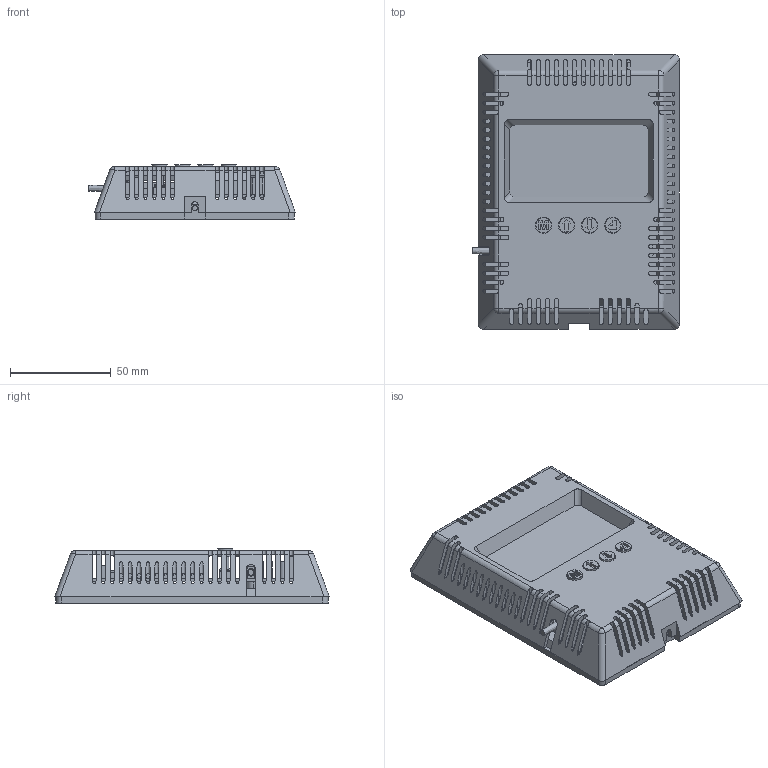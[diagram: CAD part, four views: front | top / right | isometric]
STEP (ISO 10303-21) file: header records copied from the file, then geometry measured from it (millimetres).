
FILE_DESCRIPTION(/* description */ (''),/* implementation_level */ '2;1');
FILE_NAME(/* name */ 'R:\Temp\J. Narvaez\IAN DRAWINGS\001 - Controls\002 - MicroMag Controllers\003 - Thermostat\MCS-THERMOSTAT-3D.stp',/* time_stamp */ '2022-11-08T09:12:26-05:00',/* author */ ('mjeter'),/* organization */ ('unknown'),/* preprocessor_version */ 'ST-DEVELOPER v19',/* originating_system */ 'Autodesk Inventor 2023',/* authorisation */ '');
FILE_SCHEMA (('AUTOMOTIVE_DESIGN { 1 0 10303 214 3 1 1 }'));
Length unit declared in the file: inch
Products named in the file (1): MCS-THERMOSTAT-3D
Bounding box: 102.6 x 136.13 x 26.92 mm (x, y, z)
Volume: 103737.6 mm3; surface area: 109769.1 mm2
Topology: 26 solids, 57 shells, 981 faces, 2931 edges, 1968 vertices
Faces by surface type: plane 558, cylinder 382, sphere 28, cone 12, bspline 1
Full cylindrical faces by diameter (mm): 1.143 x20, 1.905 x8, 2.54 x1, 2.794 x5, 3.378 x12, 3.658 x4, 3.81 x5, 4.064 x1, 6.04 x4, 7.62 x4, 8.128 x4, 11.938 x1, 12.7 x2
Entity records: 33908 total; most frequent: CARTESIAN_POINT 6325, ORIENTED_EDGE 5719, DIRECTION 5711, EDGE_CURVE 2905, LINE 2017, VECTOR 2017, VERTEX_POINT 1957, AXIS2_PLACEMENT_3D 1847
